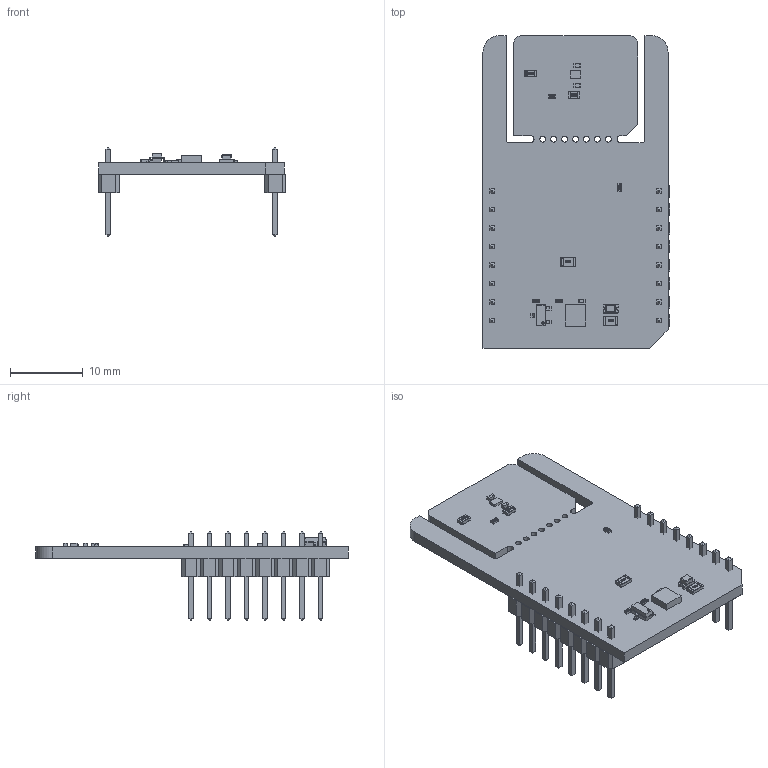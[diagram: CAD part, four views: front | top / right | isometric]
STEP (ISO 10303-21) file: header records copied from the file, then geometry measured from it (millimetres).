
FILE_DESCRIPTION(('Open CASCADE Model'),'2;1');
FILE_NAME('Open CASCADE Shape Model','2026-05-14T09:58:35',('Author'),( 'Open CASCADE'),'Open CASCADE STEP processor 6.8','Open CASCADE 6.8' ,'Unknown');
FILE_SCHEMA(('AUTOMOTIVE_DESIGN { 1 0 10303 214 1 1 1 1 }'));
Length unit declared in the file: millimetre
Products named in the file (36): PCB; Board; R1; User_Library-R_0805; LD1; led_0805_green; R2; User_Library-R_0402; C1; User_Library-SMD_CAPACITOR0402; R4; Q1; SOT23-3; U1; 1226472144; Extruded; JP1; C3; R3; R6; R7; User_Library-R_0603; U2; 1226471872; 1226472008; JP2; MBD1; Header_1x8; Free-Models; 1240637040; User_Library-PinHeaderX5-1_PinHeaderX5_Body_1; User_Library-PinHeaderX5-1_PinHeaderX5_Pins_1; C2
Assembly tree (47 placements, depth 7):
  PCB
    Board
    R1
      User_Library-R_0805
    LD1
      led_0805_green
    R2
      User_Library-R_0402
    C1
      User_Library-SMD_CAPACITOR0402
    R4
      User_Library-R_0402
    Q1
      SOT23-3
    U1
      1226472144
        Extruded
    JP1
      User_Library-R_0805
    C3
      User_Library-SMD_CAPACITOR0402
    R3
      User_Library-R_0402
    R6
      User_Library-R_0402
    R7
      User_Library-R_0603
    U2
      1226471872  x4
        Extruded
      1226472008
        Extruded
    JP2
      User_Library-R_0603
    MBD1
      Header_1x8  x2
        PCB
          Free-Models
            1240637040  x2
              User_Library-PinHeaderX5-1_PinHeaderX5_Body_1
              User_Library-PinHeaderX5-1_PinHeaderX5_Pins_1
    C2
      User_Library-SMD_CAPACITOR0402
Bounding box: 25.78 x 42.93 x 12.19 mm (x, y, z)
Volume: 2146.3 mm3; surface area: 3882.5 mm2
Topology: 52 solids, 52 shells, 1500 faces, 3751 edges, 2394 vertices
Faces by surface type: plane 1106, bspline 278, cylinder 86, sphere 30
Full cylindrical faces by diameter (mm): 0.8 x7
Entity records: 28166 total; most frequent: CARTESIAN_POINT 10338, ORIENTED_EDGE 2988, DIRECTION 2451, EDGE_CURVE 1494, LINE 1153, VECTOR 1153, VERTEX_POINT 964, AXIS2_PLACEMENT_3D 649
